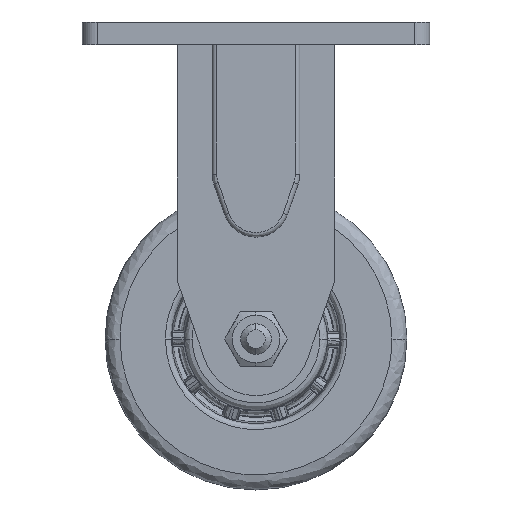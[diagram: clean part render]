
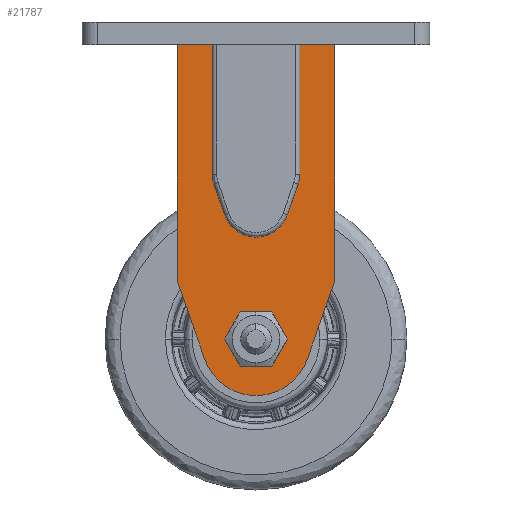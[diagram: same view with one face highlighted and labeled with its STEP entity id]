
A CAD part, front view. The second image highlights one B-rep face of the part: STEP entity #21787.
In plain terms, the highlighted planar face has unit normal (0, -1, 0).
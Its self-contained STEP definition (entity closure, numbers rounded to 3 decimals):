
#72 = DIRECTION ( 'NONE',  ( 0., 0., -1. ) ) ;
#75 = VERTEX_POINT ( 'NONE', #16143 ) ;
#138 = DIRECTION ( 'NONE',  ( 0., 0., 1. ) ) ;
#416 = LINE ( 'NONE', #41497, #3011 ) ;
#1097 = CARTESIAN_POINT ( 'NONE',  ( 0., -37.3, -105. ) ) ;
#2451 = CARTESIAN_POINT ( 'NONE',  ( -1.373, -37.3, -7.5 ) ) ;
#2583 = LINE ( 'NONE', #26641, #41646 ) ;
#2874 = FACE_OUTER_BOUND ( 'NONE', #25190, .T. ) ;
#3011 = VECTOR ( 'NONE', #3815, 1000. ) ;
#3133 = ORIENTED_EDGE ( 'NONE', *, *, #26502, .T. ) ;
#3293 = VECTOR ( 'NONE', #14452, 1000. ) ;
#3479 = CARTESIAN_POINT ( 'NONE',  ( 14.5, -37.3, -105.737 ) ) ;
#3560 = VERTEX_POINT ( 'NONE', #12413 ) ;
#3815 = DIRECTION ( 'NONE',  ( -0.33, 0., -0.944 ) ) ;
#4103 = DIRECTION ( 'NONE',  ( 0., 0., -1. ) ) ;
#4939 = CARTESIAN_POINT ( 'NONE',  ( 26., -37.3, -85.872 ) ) ;
#5080 = CIRCLE ( 'NONE', #14523, 11. ) ;
#5216 = CARTESIAN_POINT ( 'NONE',  ( -13.941, -37.3, -53.676 ) ) ;
#5281 = ORIENTED_EDGE ( 'NONE', *, *, #5944, .F. ) ;
#5306 = DIRECTION ( 'NONE',  ( 0.33, 0., 0.944 ) ) ;
#5901 = CARTESIAN_POINT ( 'NONE',  ( -16.994, -37.3, -111.669 ) ) ;
#5944 = EDGE_CURVE ( 'NONE', #35468, #3560, #30813, .T. ) ;
#6373 = VERTEX_POINT ( 'NONE', #44593 ) ;
#7189 = LINE ( 'NONE', #24661, #3293 ) ;
#7854 = DIRECTION ( 'NONE',  ( 0., 0., -1. ) ) ;
#7979 = CARTESIAN_POINT ( 'NONE',  ( 14.5, -37.3, -7.5 ) ) ;
#8251 = VERTEX_POINT ( 'NONE', #16349 ) ;
#8872 = VERTEX_POINT ( 'NONE', #39976 ) ;
#9235 = DIRECTION ( 'NONE',  ( 0., -1., 0. ) ) ;
#9309 = AXIS2_PLACEMENT_3D ( 'NONE', #29164, #11916, #25758 ) ;
#9678 = CARTESIAN_POINT ( 'NONE',  ( 0., -37.3, -60.237 ) ) ;
#9795 = VECTOR ( 'NONE', #21686, 1000. ) ;
#9835 = ORIENTED_EDGE ( 'NONE', *, *, #12548, .T. ) ;
#9938 = LINE ( 'NONE', #41488, #24593 ) ;
#10061 = ORIENTED_EDGE ( 'NONE', *, *, #28218, .T. ) ;
#10119 = LINE ( 'NONE', #40995, #41677 ) ;
#11916 = DIRECTION ( 'NONE',  ( 0., 1., 0. ) ) ;
#12313 = CARTESIAN_POINT ( 'NONE',  ( -26., -37.3, -7.5 ) ) ;
#12413 = CARTESIAN_POINT ( 'NONE',  ( 26., -37.3, -7.5 ) ) ;
#12548 = EDGE_CURVE ( 'NONE', #33890, #34921, #2583, .T. ) ;
#12930 = CIRCLE ( 'NONE', #9309, 10. ) ;
#13024 = LINE ( 'NONE', #3479, #18327 ) ;
#13558 = EDGE_CURVE ( 'NONE', #6373, #29007, #10119, .T. ) ;
#14414 = EDGE_CURVE ( 'NONE', #29711, #36900, #39152, .T. ) ;
#14437 = CARTESIAN_POINT ( 'NONE',  ( 26., -37.3, -105.737 ) ) ;
#14452 = DIRECTION ( 'NONE',  ( 0., 0., -1. ) ) ;
#14523 = AXIS2_PLACEMENT_3D ( 'NONE', #16427, #16646, #4103 ) ;
#16107 = CARTESIAN_POINT ( 'NONE',  ( 0., -37.3, -96.7 ) ) ;
#16143 = CARTESIAN_POINT ( 'NONE',  ( 0., -37.3, -71.237 ) ) ;
#16286 = DIRECTION ( 'NONE',  ( 1., 0., 0. ) ) ;
#16349 = CARTESIAN_POINT ( 'NONE',  ( 13.941, -37.3, -53.676 ) ) ;
#16427 = CARTESIAN_POINT ( 'NONE',  ( 0., -37.3, -60.237 ) ) ;
#16613 = CIRCLE ( 'NONE', #37638, 18. ) ;
#16646 = DIRECTION ( 'NONE',  ( 0., 1., 0. ) ) ;
#16923 = FACE_BOUND ( 'NONE', #18048, .T. ) ;
#17206 = ORIENTED_EDGE ( 'NONE', *, *, #26901, .F. ) ;
#17301 = CIRCLE ( 'NONE', #20212, 8.3 ) ;
#17662 = CARTESIAN_POINT ( 'NONE',  ( 4.5, -37.3, -50.381 ) ) ;
#18024 = ORIENTED_EDGE ( 'NONE', *, *, #20887, .T. ) ;
#18048 = EDGE_LOOP ( 'NONE', ( #26197, #40237 ) ) ;
#18242 = AXIS2_PLACEMENT_3D ( 'NONE', #17662, #44657, #41949 ) ;
#18327 = VECTOR ( 'NONE', #72, 1000. ) ;
#18781 = DIRECTION ( 'NONE',  ( 0., 1., 0. ) ) ;
#19328 = CARTESIAN_POINT ( 'NONE',  ( -10.385, -37.3, -63.862 ) ) ;
#20212 = AXIS2_PLACEMENT_3D ( 'NONE', #35546, #25533, #7854 ) ;
#20283 = CIRCLE ( 'NONE', #26079, 8.3 ) ;
#20336 = DIRECTION ( 'NONE',  ( 0., 0., -1. ) ) ;
#20535 = VECTOR ( 'NONE', #44724, 1000. ) ;
#20887 = EDGE_CURVE ( 'NONE', #35468, #44325, #13024, .T. ) ;
#21111 = VERTEX_POINT ( 'NONE', #19328 ) ;
#21686 = DIRECTION ( 'NONE',  ( 0.33, 0., -0.944 ) ) ;
#21787 = ADVANCED_FACE ( 'NONE', ( #2874, #16923 ), #40560, .T. ) ;
#21999 = EDGE_CURVE ( 'NONE', #21111, #34566, #27711, .T. ) ;
#23097 = VECTOR ( 'NONE', #138, 1000. ) ;
#23165 = CIRCLE ( 'NONE', #28962, 11. ) ;
#23648 = CARTESIAN_POINT ( 'NONE',  ( 14.5, -37.3, -50.381 ) ) ;
#24027 = EDGE_CURVE ( 'NONE', #8251, #8872, #416, .T. ) ;
#24094 = EDGE_CURVE ( 'NONE', #44325, #8251, #38514, .T. ) ;
#24302 = CARTESIAN_POINT ( 'NONE',  ( 0., -37.3, -113.3 ) ) ;
#24593 = VECTOR ( 'NONE', #37191, 1000. ) ;
#24661 = CARTESIAN_POINT ( 'NONE',  ( -26., -37.3, -105.737 ) ) ;
#24905 = ORIENTED_EDGE ( 'NONE', *, *, #14414, .T. ) ;
#25190 = EDGE_LOOP ( 'NONE', ( #3133, #9835, #30244, #5281, #18024, #25688, #25275, #28985, #10061, #41864, #38299, #36861, #17206, #41489, #24905 ) ) ;
#25275 = ORIENTED_EDGE ( 'NONE', *, *, #24027, .T. ) ;
#25328 = EDGE_CURVE ( 'NONE', #34921, #3560, #34643, .T. ) ;
#25506 = EDGE_CURVE ( 'NONE', #43871, #33292, #17301, .T. ) ;
#25533 = DIRECTION ( 'NONE',  ( 0., 1., 0. ) ) ;
#25688 = ORIENTED_EDGE ( 'NONE', *, *, #24094, .T. ) ;
#25758 = DIRECTION ( 'NONE',  ( 0., 0., -1. ) ) ;
#25921 = VERTEX_POINT ( 'NONE', #12313 ) ;
#26079 = AXIS2_PLACEMENT_3D ( 'NONE', #1097, #18781, #38770 ) ;
#26197 = ORIENTED_EDGE ( 'NONE', *, *, #32014, .T. ) ;
#26354 = DIRECTION ( 'NONE',  ( 0., -1., 0. ) ) ;
#26502 = EDGE_CURVE ( 'NONE', #36900, #33890, #16613, .T. ) ;
#26641 = CARTESIAN_POINT ( 'NONE',  ( 16.994, -37.3, -111.669 ) ) ;
#26901 = EDGE_CURVE ( 'NONE', #25921, #29007, #9938, .T. ) ;
#27711 = LINE ( 'NONE', #41338, #20535 ) ;
#27901 = EDGE_CURVE ( 'NONE', #8872, #75, #23165, .T. ) ;
#28218 = EDGE_CURVE ( 'NONE', #75, #21111, #5080, .T. ) ;
#28615 = CARTESIAN_POINT ( 'NONE',  ( -26., -37.3, -85.872 ) ) ;
#28962 = AXIS2_PLACEMENT_3D ( 'NONE', #9678, #41664, #20336 ) ;
#28985 = ORIENTED_EDGE ( 'NONE', *, *, #27901, .T. ) ;
#29007 = VERTEX_POINT ( 'NONE', #29664 ) ;
#29164 = CARTESIAN_POINT ( 'NONE',  ( -4.5, -37.3, -50.381 ) ) ;
#29664 = CARTESIAN_POINT ( 'NONE',  ( -14.5, -37.3, -7.5 ) ) ;
#29711 = VERTEX_POINT ( 'NONE', #28615 ) ;
#30244 = ORIENTED_EDGE ( 'NONE', *, *, #25328, .T. ) ;
#30813 = LINE ( 'NONE', #2451, #44225 ) ;
#32014 = EDGE_CURVE ( 'NONE', #33292, #43871, #20283, .T. ) ;
#33292 = VERTEX_POINT ( 'NONE', #24302 ) ;
#33890 = VERTEX_POINT ( 'NONE', #40510 ) ;
#34566 = VERTEX_POINT ( 'NONE', #5216 ) ;
#34643 = LINE ( 'NONE', #14437, #23097 ) ;
#34921 = VERTEX_POINT ( 'NONE', #4939 ) ;
#35468 = VERTEX_POINT ( 'NONE', #7979 ) ;
#35546 = CARTESIAN_POINT ( 'NONE',  ( 0., -37.3, -105. ) ) ;
#36009 = EDGE_CURVE ( 'NONE', #25921, #29711, #7189, .T. ) ;
#36861 = ORIENTED_EDGE ( 'NONE', *, *, #13558, .T. ) ;
#36900 = VERTEX_POINT ( 'NONE', #5901 ) ;
#37191 = DIRECTION ( 'NONE',  ( 1., 0., 0. ) ) ;
#37588 = DIRECTION ( 'NONE',  ( 0., 0., -1. ) ) ;
#37638 = AXIS2_PLACEMENT_3D ( 'NONE', #40654, #26354, #39973 ) ;
#38299 = ORIENTED_EDGE ( 'NONE', *, *, #43054, .T. ) ;
#38514 = CIRCLE ( 'NONE', #18242, 10. ) ;
#38770 = DIRECTION ( 'NONE',  ( 0., 0., -1. ) ) ;
#39152 = LINE ( 'NONE', #41673, #9795 ) ;
#39973 = DIRECTION ( 'NONE',  ( 0., 0., 1. ) ) ;
#39976 = CARTESIAN_POINT ( 'NONE',  ( 10.385, -37.3, -63.862 ) ) ;
#40237 = ORIENTED_EDGE ( 'NONE', *, *, #25506, .T. ) ;
#40333 = CARTESIAN_POINT ( 'NONE',  ( 0., -37.3, -105.737 ) ) ;
#40510 = CARTESIAN_POINT ( 'NONE',  ( 16.994, -37.3, -111.669 ) ) ;
#40560 = PLANE ( 'NONE',  #43719 ) ;
#40654 = CARTESIAN_POINT ( 'NONE',  ( 0., -37.3, -105.737 ) ) ;
#40995 = CARTESIAN_POINT ( 'NONE',  ( -14.5, -37.3, -105.737 ) ) ;
#41216 = DIRECTION ( 'NONE',  ( 0., 0., 1. ) ) ;
#41338 = CARTESIAN_POINT ( 'NONE',  ( -10.385, -37.3, -63.862 ) ) ;
#41488 = CARTESIAN_POINT ( 'NONE',  ( -1.373, -37.3, -7.5 ) ) ;
#41489 = ORIENTED_EDGE ( 'NONE', *, *, #36009, .T. ) ;
#41497 = CARTESIAN_POINT ( 'NONE',  ( 13.941, -37.3, -53.676 ) ) ;
#41646 = VECTOR ( 'NONE', #5306, 1000. ) ;
#41664 = DIRECTION ( 'NONE',  ( 0., 1., 0. ) ) ;
#41673 = CARTESIAN_POINT ( 'NONE',  ( -26., -37.3, -85.872 ) ) ;
#41677 = VECTOR ( 'NONE', #41216, 1000. ) ;
#41864 = ORIENTED_EDGE ( 'NONE', *, *, #21999, .T. ) ;
#41949 = DIRECTION ( 'NONE',  ( 0., 0., -1. ) ) ;
#43054 = EDGE_CURVE ( 'NONE', #34566, #6373, #12930, .T. ) ;
#43719 = AXIS2_PLACEMENT_3D ( 'NONE', #40333, #9235, #37588 ) ;
#43871 = VERTEX_POINT ( 'NONE', #16107 ) ;
#44225 = VECTOR ( 'NONE', #16286, 1000. ) ;
#44325 = VERTEX_POINT ( 'NONE', #23648 ) ;
#44593 = CARTESIAN_POINT ( 'NONE',  ( -14.5, -37.3, -50.381 ) ) ;
#44657 = DIRECTION ( 'NONE',  ( 0., 1., 0. ) ) ;
#44724 = DIRECTION ( 'NONE',  ( -0.33, 0., 0.944 ) ) ;
